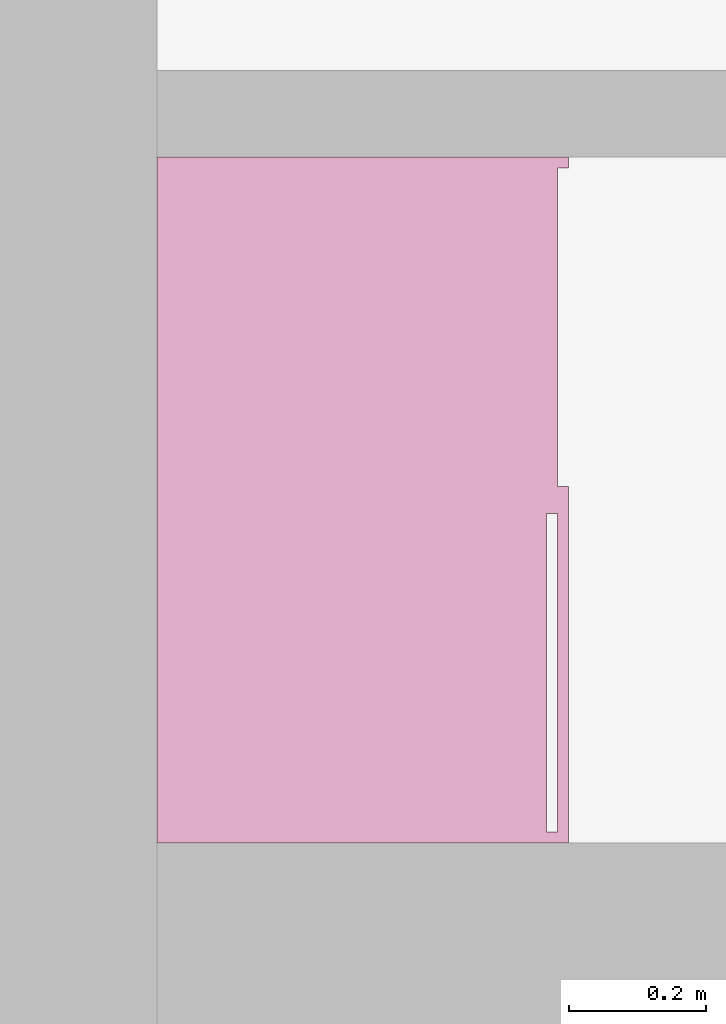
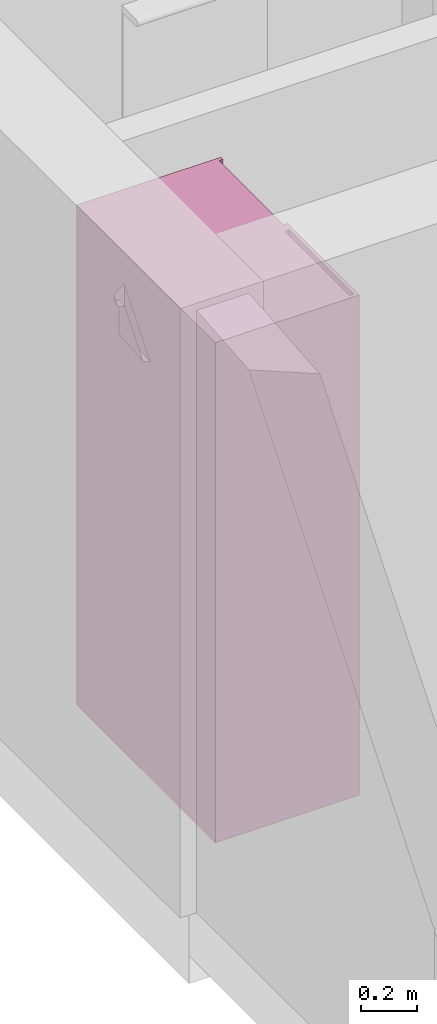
# One storey, part 33 of 65: 1 furnishing.
"""IFC2X3 building model written with IfcOpenShell, lengths in millimetres."""

from ifc_helpers import new_model, entity, si_unit, converted_unit, direction, frame, frame_2d, origin, place, context, subcontext, project, spatial, polyline, rectangle, outline, extrude, source, transform, mapped, material, type_object, type_shapes, element, save


model = new_model("IFC2X3")

# Units and contexts
model_context = context("Model", 3, precision=0.01, world=origin(), true_north=direction((0.0, 1.0)))
body_context = subcontext(model_context, "Body", "Model", "MODEL_VIEW")
ifc_project = project(units=[si_unit("LENGTHUNIT", "METRE", prefix="MILLI"), si_unit("AREAUNIT", "SQUARE_METRE"), si_unit("VOLUMEUNIT", "CUBIC_METRE"), converted_unit("PLANEANGLEUNIT", "DEGREE", entity("IfcPlaneAngleMeasure", 0.017453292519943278), si_unit("PLANEANGLEUNIT", "RADIAN"), dimensions=[0, 0, 0, 0, 0, 0, 0])], contexts=[model_context])

# Site, building, storey, space
site_placement = place(None, origin())
site = spatial("IfcSite", under=ifc_project, at=site_placement, Name="Default", CompositionType="ELEMENT")
building_placement = place(site_placement, origin())
building = spatial("IfcBuilding", under=site, at=building_placement, CompositionType="ELEMENT")
storey_placement = place(building_placement, origin())
storey = spatial("IfcBuildingStorey", under=building, at=storey_placement, Name="Et. 1", CompositionType="ELEMENT", Elevation=0.0)
space_placement = place(storey_placement, origin())
space = spatial("IfcSpace", under=storey, at=space_placement, Name="103", CompositionType="ELEMENT", InteriorOrExteriorSpace="INTERNAL")

# Furnishing
ifc_material = material(Name="Møbler - Hvit")
furniture_type = type_object("IfcFurnitureType", Name="Focus Garderobeskap - Skyvedører 2 slette:100x60x220", AssemblyPlace="NOTDEFINED", material=ifc_material)
shared_shape = source(origin(), body_context, "Body", "SweptSolid", [
    extrude(rectangle(XDim=16.000000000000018, YDim=504.0000000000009, at=frame_2d((0.0, 4.263256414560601e-14), x_axis=(1.0, 0.0))), frame((232.0, 292.0, 10.0), z_axis=(0.0, 0.0, 1.0), x_axis=(0.0, 1.0, 0.0)), (0.0, 0.0, 1.0), 2189.9999999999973),
    extrude(rectangle(XDim=16.000000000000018, YDim=504.00000000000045, at=frame_2d((0.0, 4.263256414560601e-14), x_axis=(1.0, 0.0))), frame((-232.0, 276.0, 10.0), z_axis=(0.0, 0.0, 1.0), x_axis=(0.0, 1.0, 0.0)), (0.0, 0.0, 1.0), 2189.9999999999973),
    extrude(outline(polyline([(-442.0, -500.0), (158.0, -500.0), (158.0, -484.0), (126.0, -484.0), (126.0, 484.0), (158.0, 484.0), (158.0, 500.0), (-442.0, 500.0), (-442.0, -500.0)])), frame((0.0, 142.0, 0.0), z_axis=(0.0, 0.0, 1.0), x_axis=(0.0, 1.0, 0.0)), (0.0, 0.0, 1.0), 2200.0000000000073),
])
type_shapes(furniture_type, [shared_shape])
furnishing_placement = place(space_placement, frame((10737.00958675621, 12254.180957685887, 0.0), z_axis=(0.0, 0.0, 1.0), x_axis=(0.0, -1.0, 0.0)))
element("IfcFurnishingElement", 1, at=furnishing_placement, inside=space, type_object=furniture_type, material=ifc_material, Name="Focus Garderobeskap - Skyvedører 2 slette:100x60x220", context=body_context, shape_type="MappedRepresentation", body=[
    mapped(shared_shape, transform((0.0, 0.0, 0.0), scale=1.0)),
])

save(model, "model.ifc")
